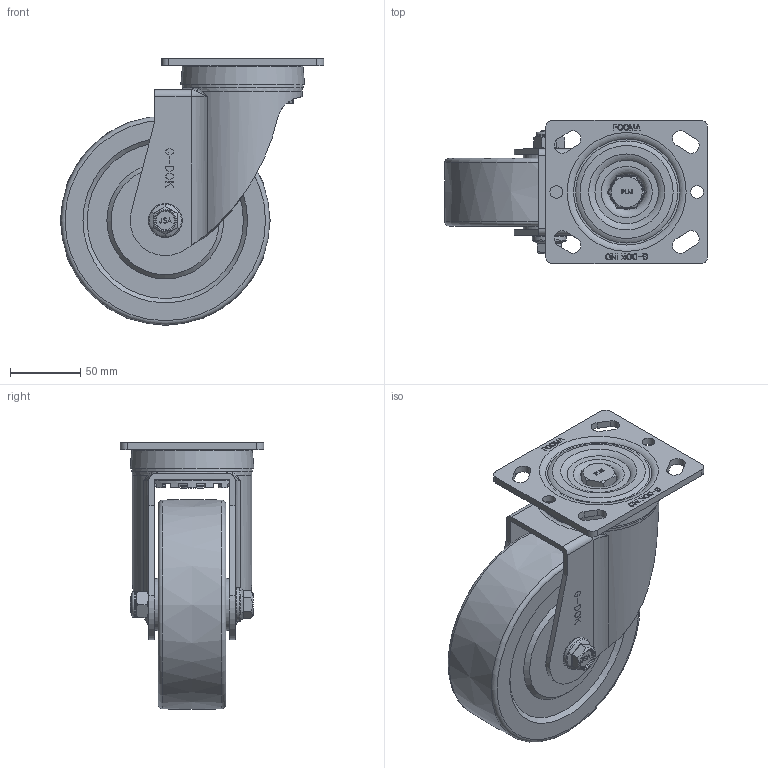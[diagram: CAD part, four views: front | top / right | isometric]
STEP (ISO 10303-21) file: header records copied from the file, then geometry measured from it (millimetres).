
FILE_DESCRIPTION(/* description */ (''),/* implementation_level */ '2;1');
FILE_NAME(/* name */ '\\192.168.10.38\지덕공유\1.기술연구소\2.연구개발 진행중\28.PLM-SERIES_MEDIUM\제품설계\홈페이지용 도면\PLM-150-ASF-MCD.stp',/* time_stamp */ '2022-03-04T17:10:29+09:00',/* author */ ('admin'),/* organization */ (''),/* preprocessor_version */ 'ST-DEVELOPER v18.1',/* originating_system */ 'Autodesk Inventor 2021',/* authorisation */ '');
FILE_SCHEMA (('AUTOMOTIVE_DESIGN { 1 0 10303 214 3 1 1 }'));
Length unit declared in the file: millimetre
Products named in the file (1): PLM-150-ASF-MCD
Bounding box: 187 x 102 x 189.5 mm (x, y, z)
Volume: 1061030.7 mm3; surface area: 132527.8 mm2
Topology: 1 solids, 1 shells, 1031 faces, 2843 edges, 1876 vertices
Faces by surface type: plane 707, bspline 142, cylinder 118, cone 36, torus 28
Full cylindrical faces by diameter (mm): 9 x2, 12 x1, 14 x1, 16 x1, 18.5 x1, 24 x1, 37 x2, 64.8 x1, 72.8 x1, 85.857 x1
Entity records: 36315 total; most frequent: CARTESIAN_POINT 11265, ORIENTED_EDGE 5678, DIRECTION 4382, EDGE_CURVE 2839, LINE 1990, VECTOR 1990, VERTEX_POINT 1876, AXIS2_PLACEMENT_3D 1196
